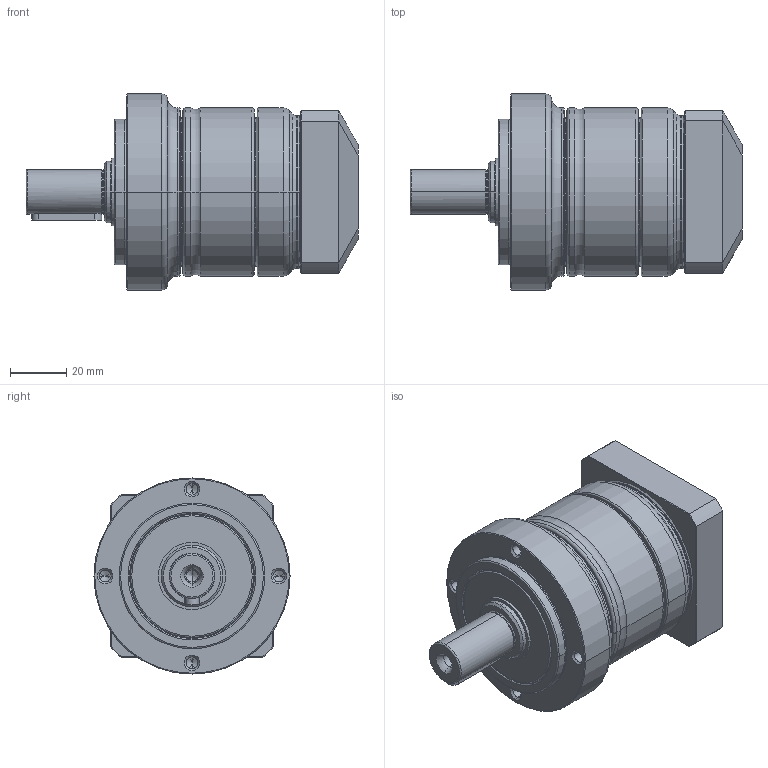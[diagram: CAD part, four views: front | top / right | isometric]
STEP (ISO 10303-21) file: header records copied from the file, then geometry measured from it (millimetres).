
FILE_DESCRIPTION((''),'2;1');
FILE_NAME('PE2-070_1ST_8-P0411100101_ASM','2017-05-26T',('d01943'),(''),'PRO/ENGINEER BY PARAMETRIC TECHNOLOGY CORPORATION, 2008410','PRO/ENGINEER BY PARAMETRIC TECHNOLOGY CORPORATION, 2008410','');
FILE_SCHEMA(('CONFIG_CONTROL_DESIGN'));
Length unit declared in the file: millimetre
Products named in the file (9): P1323210001; P0250200001; P1324200001; P0350201001; P0941200001; P0503100005; P0411100101; P1702300001; PE2-070_1ST_8-P0411100101_ASM
Assembly tree (8 placements, depth 2):
  PE2-070_1ST_8-P0411100101_ASM
    P1323210001
    P0250200001
    P1324200001
    P0350201001
    P0941200001
    P0503100005
    P0411100101
    P1702300001
Bounding box: 118.5 x 70 x 70 mm (x, y, z)
Volume: 210557.8 mm3; surface area: 64928.7 mm2
Topology: 8 solids, 8 shells, 452 faces, 1010 edges, 586 vertices
Faces by surface type: cylinder 134, cone 128, torus 98, plane 76, bspline 16
Entity records: 17611 total; most frequent: CARTESIAN_POINT 7323, DIRECTION 2327, ORIENTED_EDGE 1972, AXIS2_PLACEMENT_3D 1003, EDGE_CURVE 986, VERTEX_POINT 586, CIRCLE 550, EDGE_LOOP 512
